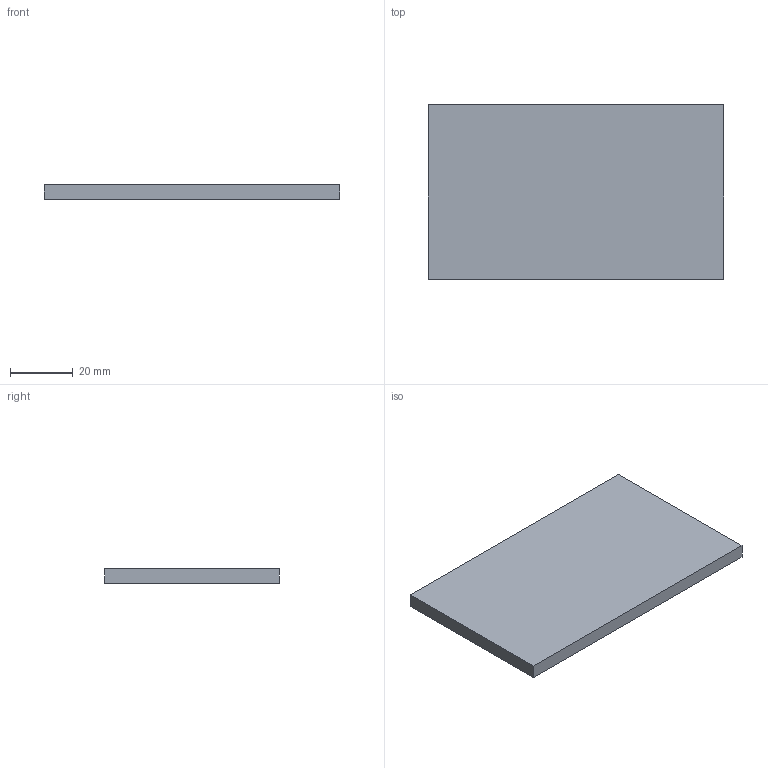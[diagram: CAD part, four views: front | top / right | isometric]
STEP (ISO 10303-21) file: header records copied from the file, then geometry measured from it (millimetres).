
FILE_DESCRIPTION(/* description */ ('STEP AP242 Edition 2','CAx-IF Rec.Pracs.---Representation and Presentation of Product Manufacturing Information (PMI)---4.0---2014-10-13','CAx-IF Rec.Pracs.---3D Tessellated Geometry---0.4---2014-09-14','2;1','CAx-IF Rec.Pracs.---User Defined Attributes---1.5---2016-08-15'),/* implementation_level */ '2;1');
FILE_NAME(/* name */ 'Assembly 1 - Part 1 (2)',/* time_stamp */ '2026-07-23T10:03:21Z',/* author */ (''),/* organization */ (''),/* preprocessor_version */ 'ST-DEVELOPER v20',/* originating_system */ 'ONSHAPE BY PTC INC, 1.218',/* authorisation */ ' ');
FILE_SCHEMA (('AP242_MANAGED_MODEL_BASED_3D_ENGINEERING_MIM_LF { 1 0 10303 442 3 1 4 }'));
Length unit declared in the file: metre
Products named in the file (1): Part 1
Bounding box: 94.1 x 55.65 x 4.5 mm (x, y, z)
Volume: 23565 mm3; surface area: 11821.1 mm2
Topology: 1 solids, 1 shells, 6 faces, 12 edges, 8 vertices
Faces by surface type: plane 6
Entity records: 178 total; most frequent: CARTESIAN_POINT 27, DIRECTION 26, ORIENTED_EDGE 24, EDGE_CURVE 12, LINE 12, VECTOR 12, VERTEX_POINT 8, AXIS2_PLACEMENT_3D 7
